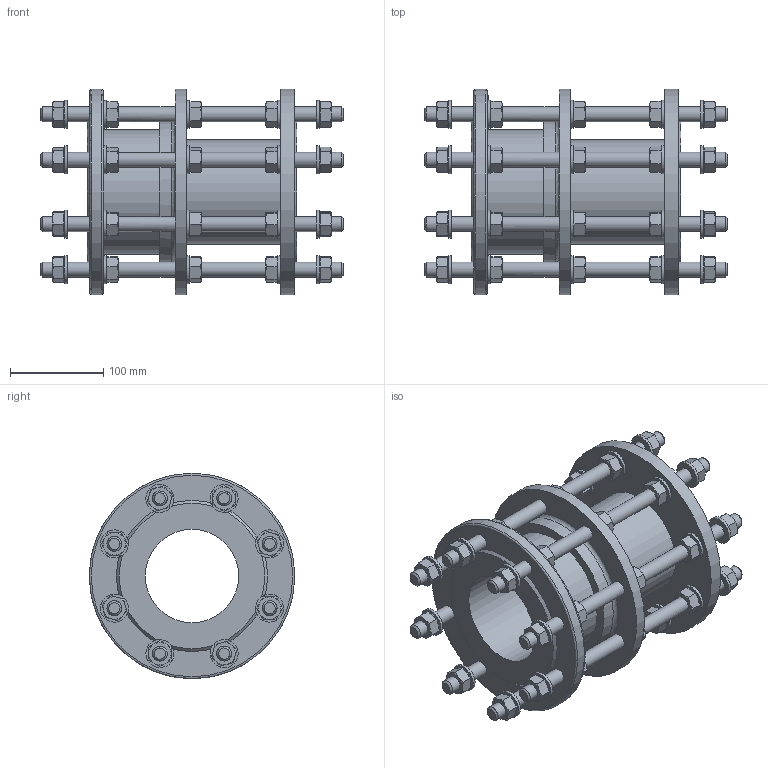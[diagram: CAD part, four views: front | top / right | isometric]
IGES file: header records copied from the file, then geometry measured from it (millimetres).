
Start section: SolidWorks IGES file using analytic representation for surfaces
Global section: file name: \\avksan2\techshare\PBM outline export from Enovia\O_265_910_DN100_1XXXXX00_L=225_REV01.igs; native system: SolidWorks 2022; preprocessor: SolidWorks 2022; author: pbm; date: 241011.101050; units: millimetre
Bounding box: 325 x 220 x 220 mm (x, y, z)
Surface area: 479555.5 mm2 (no closed solid volume)
Topology: 0 solids, 0 shells, 1038 faces, 4348 edges, 4192 vertices
Faces by surface type: bspline 640, revolution 398
